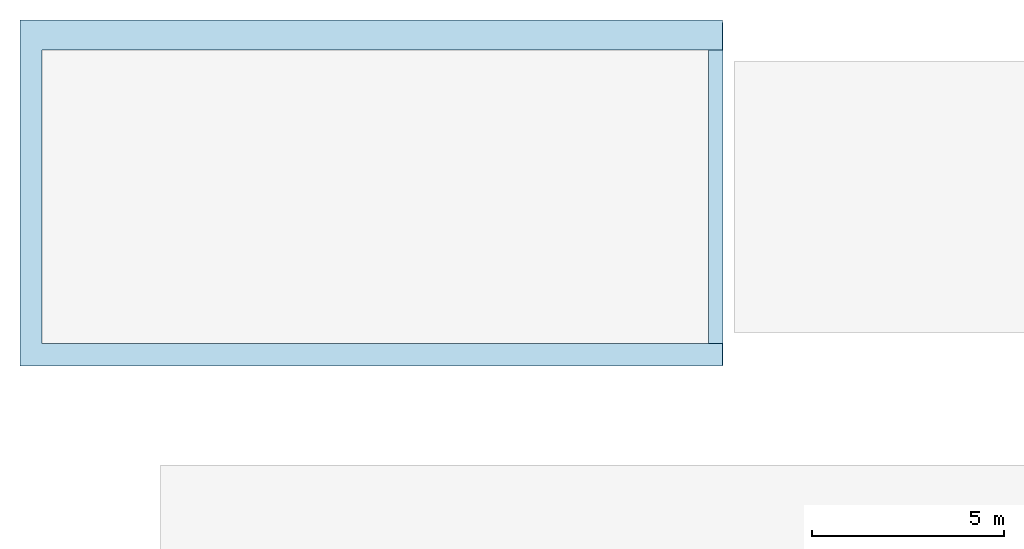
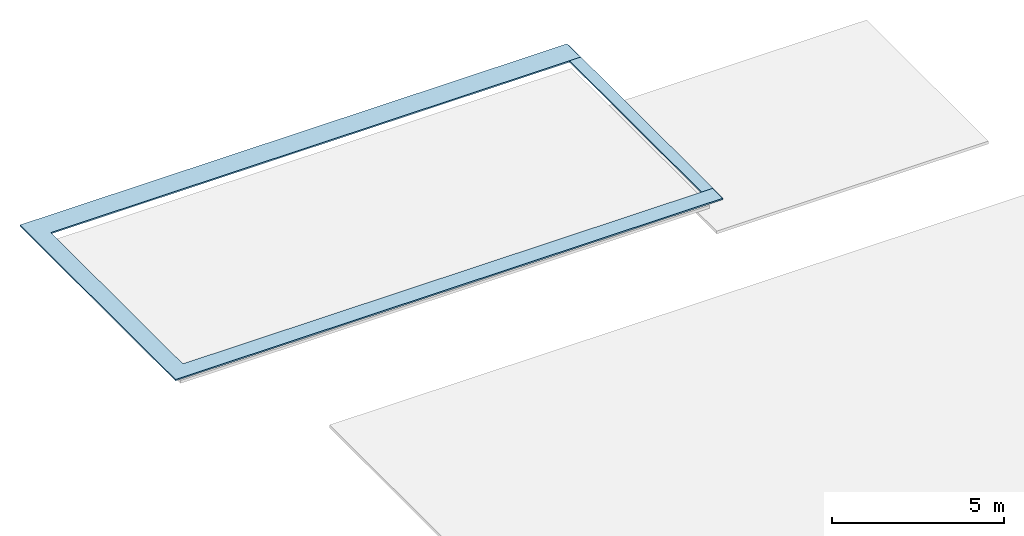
# One storey, part 2 of 2: 2 roofs.
"""IFC2X3 building model written with IfcOpenShell, lengths in centimetres."""

from ifc_helpers import new_model, entity, si_unit, converted_unit, derived_unit, direction, frame, origin, place, context, subcontext, project, spatial, faceted_brep, material, element, save


model = new_model("IFC2X3")

# Units and contexts
model_context = context("Model", 3, precision=0.001, world=origin(), true_north=direction((6.12303176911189e-17, 1.0)))
body_context = subcontext(model_context, "Body", "Model", "MODEL_VIEW")
ifc_project = project(units=[si_unit("LENGTHUNIT", "METRE", prefix="CENTI"), si_unit("AREAUNIT", "SQUARE_METRE"), si_unit("VOLUMEUNIT", "CUBIC_METRE"), converted_unit("PLANEANGLEUNIT", "DEGREE", entity("IfcRatioMeasure", 0.0174532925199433), si_unit("PLANEANGLEUNIT", "RADIAN"), dimensions=[0, 0, 0, 0, 0, 0, 0]), si_unit("MASSUNIT", "GRAM", prefix="KILO"), derived_unit("MASSDENSITYUNIT", [(si_unit("MASSUNIT", "GRAM", prefix="KILO"), 1), (si_unit("LENGTHUNIT", "METRE"), -3)]), si_unit("TIMEUNIT", "SECOND"), si_unit("FREQUENCYUNIT", "HERTZ"), si_unit("THERMODYNAMICTEMPERATUREUNIT", "DEGREE_CELSIUS"), derived_unit("THERMALTRANSMITTANCEUNIT", [(si_unit("MASSUNIT", "GRAM", prefix="KILO"), 1), (si_unit("THERMODYNAMICTEMPERATUREUNIT", "KELVIN"), -1), (si_unit("TIMEUNIT", "SECOND"), -3)]), derived_unit("VOLUMETRICFLOWRATEUNIT", [(si_unit("LENGTHUNIT", "METRE"), 3), (si_unit("TIMEUNIT", "SECOND"), -1)]), si_unit("ELECTRICCURRENTUNIT", "AMPERE"), si_unit("ELECTRICVOLTAGEUNIT", "VOLT"), si_unit("POWERUNIT", "WATT"), si_unit("FORCEUNIT", "NEWTON", prefix="KILO"), si_unit("ILLUMINANCEUNIT", "LUX"), si_unit("LUMINOUSFLUXUNIT", "LUMEN"), si_unit("LUMINOUSINTENSITYUNIT", "CANDELA"), derived_unit("USERDEFINED", [(si_unit("MASSUNIT", "GRAM", prefix="KILO"), -1), (si_unit("LENGTHUNIT", "METRE"), -2), (si_unit("TIMEUNIT", "SECOND"), 3), (si_unit("LUMINOUSFLUXUNIT", "LUMEN"), 1)]), derived_unit("LINEARVELOCITYUNIT", [(si_unit("LENGTHUNIT", "METRE"), 1), (si_unit("TIMEUNIT", "SECOND"), -1)]), si_unit("PRESSUREUNIT", "PASCAL"), derived_unit("USERDEFINED", [(si_unit("LENGTHUNIT", "METRE"), -2), (si_unit("MASSUNIT", "GRAM", prefix="KILO"), 1), (si_unit("TIMEUNIT", "SECOND"), -2)])], contexts=[model_context])

# Site, building, storey
site_placement = place(None, frame((-2781.94577612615, 7442.24238424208, 0.0)))
site = spatial("IfcSite", under=ifc_project, at=site_placement, Name="Default", CompositionType="ELEMENT")
building_placement = place(site_placement, origin())
building = spatial("IfcBuilding", under=site, at=building_placement, CompositionType="ELEMENT")
storey_placement = place(building_placement, frame((0.0, 0.0, 490.0)))
storey = spatial("IfcBuildingStorey", under=building, at=storey_placement, Name="Toiture - Maintenance", CompositionType="ELEMENT", Elevation=489.999999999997)

# Roofs
ifc_material = material(Name="Aluminium")
roof_1_placement = place(storey_placement, frame((-11231.6616968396, -851.048500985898, -4.0)))
element("IfcRoof", 1, at=roof_1_placement, inside=storey, material=ifc_material, Name="Couvertine ( maintenance):Couvertine ( maintenance)", ObjectType="Couvertine ( maintenance):Couvertine ( maintenance)", ShapeType="NOTDEFINED", context=body_context, shape_type="Brep", body=[
    faceted_brep([(58.0, 901.048500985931, 0.0), (57.5000000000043, 901.048500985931, 0.0), (57.5000000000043, 901.048500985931, 4.49999999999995), (58.0, 901.048500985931, 4.49999999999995), (57.5000000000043, 824.548500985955, 4.50000000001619), (0.500000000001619, 824.548500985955, 4.50000000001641), (0.500000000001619, 901.048500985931, 4.49999999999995), (0.0, 901.048500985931, 4.49999999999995), (0.0, 901.548500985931, 4.50000000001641), (1832.16181917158, 901.548500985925, 4.49999999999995), (1832.16181917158, 896.048500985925, 4.49999999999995), (1832.16181917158, 824.548500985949, 4.50000000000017), (1795.66181917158, 824.54850098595, 4.50000000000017), (1795.16181917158, 824.54850098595, 4.50000000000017), (58.0, 824.548500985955, 4.50000000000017), (0.500000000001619, 901.048500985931, 0.0), (0.500000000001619, 824.548500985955, 0.0), (1832.16181917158, 824.548500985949, 0.0), (1832.16181917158, 824.048500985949, 0.0), (1795.66181917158, 824.04850098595, 0.0), (1795.16181917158, 824.04850098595, 0.0), (58.0, 824.048500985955, 0.0), (58.0, 58.0, 0.0), (1795.16181917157, 58.0, 0.0), (1795.66181917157, 58.0, 0.0), (1832.16181917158, 58.0, 0.0), (1832.16181917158, 57.5000000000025, 0.0), (1795.66181917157, 57.5000000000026, 0.0), (1795.16181917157, 57.5000000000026, 0.0), (57.5000000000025, 57.5000000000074, 0.0), (57.5000000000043, 824.048500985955, 0.0), (0.500000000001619, 824.048500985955, 0.0), (0.499999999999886, 0.500000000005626, 0.0), (1832.16181917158, 0.499999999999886, 0.0), (1832.16181917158, 0.0, 0.0), (0.0, 0.0, 0.0), (0.0, 901.048500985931, 0.0), (57.5000000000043, 824.548500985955, 0.0), (58.0, 824.548500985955, 0.0), (1795.16181917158, 824.54850098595, 0.0), (1795.66181917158, 824.54850098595, 0.0), (0.0, 0.0, 5.0), (0.0, 902.048500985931, 5.0), (0.0, 902.048500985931, 0.0), (0.0, 901.548500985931, 0.0), (1832.16181917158, 0.0, 5.0), (1832.16181917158, 1.0, 5.0), (1832.16181917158, 58.0, 5.0), (1795.16181917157, 58.0, 5.0), (58.0, 58.0, 5.0), (58.0, 824.048500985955, 5.0), (1795.16181917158, 824.04850098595, 5.0), (1832.16181917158, 824.048500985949, 5.0), (1832.16181917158, 896.048500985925, 5.0), (1832.16181917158, 902.048500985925, 5.0), (0.499999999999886, 0.500000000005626, 4.50000000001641), (1832.16181917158, 0.499999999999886, 4.50000000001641), (1832.16181917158, 58.0, 4.50000000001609), (1832.16181917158, 57.5000000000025, 4.50000000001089), (1795.66181917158, 57.5000000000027, 4.500000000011), (1795.16181917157, 57.5000000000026, 4.500000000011), (57.5000000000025, 57.5000000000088, 4.50000000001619), (1832.16181917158, 1.0, 4.50000000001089), (1832.16181917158, 901.548500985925, 0.0), (1832.16181917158, 902.048500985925, 0.0), (1832.16181917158, 824.048500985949, 4.50000000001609), (57.5000000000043, 824.048500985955, 4.50000000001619), (0.500000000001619, 824.048500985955, 4.50000000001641)], [[[0, 1, 2, 3]], [[2, 4, 5, 6, 7, 8, 9, 10, 11, 12, 13, 14, 3]], [[15, 6, 5, 16]], [[17, 18, 19, 20, 21, 22, 23, 24, 25, 26, 27, 28, 29, 30, 31, 32, 33, 34, 35, 36, 15, 16, 37, 1, 0, 38, 39, 40]], [[36, 35, 41, 42, 43, 44, 8, 7]], [[42, 41, 45, 46, 47, 48, 49, 50, 51, 52, 53, 54]], [[0, 3, 14, 38]], [[2, 1, 37, 4]], [[55, 56, 33, 32]], [[35, 34, 45, 41]], [[49, 48, 47, 57, 25, 24, 23, 22]], [[58, 59, 60, 61, 29, 28, 27, 26]], [[56, 62, 58, 26, 25, 57, 47, 46, 45, 34, 33]], [[11, 10, 9, 63, 64, 54, 53, 52, 65, 18, 17]], [[37, 16, 5, 4]], [[31, 30, 66, 67]], [[43, 42, 54, 64]], [[44, 43, 64, 63]], [[8, 44, 63, 9]], [[18, 65, 52, 51, 50, 21, 20, 19]], [[11, 17, 40, 39, 38, 14, 13, 12]], [[29, 61, 66, 30]], [[49, 22, 21, 50]], [[55, 32, 31, 67]], [[61, 60, 59, 58, 62, 56, 55, 67, 66]], [[6, 15, 36, 7]]]),
])
roof_2_placement = place(storey_placement, frame((-9436.49987766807, -850.048500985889, -4.0)))
element("IfcRoof", 2, at=roof_2_placement, inside=storey, material=ifc_material, Name="Couvertine 02 maintenance:Couvertine 02 maintenance", ObjectType="Couvertine 02 maintenance:Couvertine 02 maintenance", ShapeType="NOTDEFINED", context=body_context, shape_type="Brep", body=[
    faceted_brep([(0.500000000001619, 895.048500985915, 4.50000000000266), (0.500000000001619, 895.048500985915, 0.0), (0.0, 895.048500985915, 0.0), (0.0, 895.048500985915, 4.49999999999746), (0.500000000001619, 823.54850098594, 4.50000000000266), (0.500000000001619, 823.54850098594, 0.0), (0.0, 823.54850098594, 0.0), (0.0, 823.54850098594, 4.49999999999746)], [[[0, 1, 2, 3]], [[1, 0, 4, 5]], [[2, 1, 5, 6]], [[3, 2, 6, 7]], [[7, 4, 0, 3]], [[4, 7, 6, 5]]]),
    faceted_brep([(0.0, 0.0, 0.0), (0.499999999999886, 0.0, 0.0), (0.499999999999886, 0.0, 4.49999999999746), (0.0, 0.0, 4.49999999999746), (0.0, 56.4999999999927, 4.49999999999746), (0.499999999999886, 56.4999999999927, 4.50000000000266), (0.499999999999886, 56.4999999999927, 0.0), (0.0, 56.4999999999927, 0.0)], [[[0, 1, 2, 3]], [[4, 5, 6, 7]], [[2, 1, 6, 5]], [[1, 0, 7, 6]], [[0, 3, 4, 7]], [[5, 4, 3, 2]]]),
    faceted_brep([(38.0, 0.0, 5.0), (38.0, 895.048500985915, 5.0), (37.0, 895.048500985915, 5.0), (37.0, 823.04850098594, 5.0), (0.0, 823.04850098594, 5.0), (0.0, 57.0, 5.0), (37.0, 57.0, 5.0), (37.0, 0.0, 5.0), (38.0, 895.048500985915, 0.0), (38.0, 0.0, 0.0), (37.5000000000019, 895.048500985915, 0.0), (37.5000000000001, 0.0, 0.0), (37.5000000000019, 895.048500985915, 4.50000000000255), (37.5000000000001, 0.0, 4.50000000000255), (37.0, 0.0, 4.50000000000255), (37.0, 56.4999999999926, 4.50000000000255), (37.0, 57.0, 4.50000000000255), (0.499999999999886, 57.0, 4.50000000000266), (0.500000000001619, 823.04850098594, 4.50000000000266), (37.0, 823.04850098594, 4.50000000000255), (37.0, 823.54850098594, 4.50000000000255), (37.0, 895.048500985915, 4.50000000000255), (0.0, 57.0, 0.0), (0.499999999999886, 57.0, 0.0), (0.500000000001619, 823.04850098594, 0.0), (0.0, 823.04850098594, 0.0)], [[[0, 1, 2, 3, 4, 5, 6, 7]], [[8, 1, 0, 9]], [[10, 8, 9, 11]], [[12, 10, 11, 13]], [[12, 13, 14, 15, 16, 17, 18, 19, 20, 21]], [[16, 6, 5, 22, 23, 17]], [[6, 16, 15, 14, 7]], [[13, 11, 9, 0, 7, 14]], [[18, 17, 23, 24]], [[24, 23, 22, 25]], [[25, 22, 5, 4]], [[1, 8, 10, 12, 21, 2]], [[19, 3, 2, 21, 20]], [[3, 19, 18, 24, 25, 4]]]),
])

save(model, "model.ifc")
